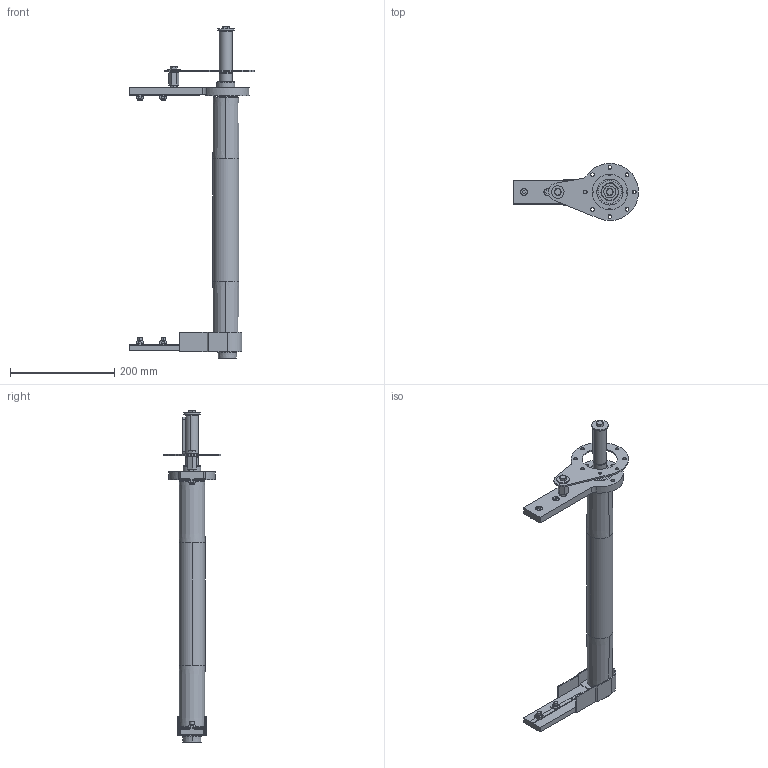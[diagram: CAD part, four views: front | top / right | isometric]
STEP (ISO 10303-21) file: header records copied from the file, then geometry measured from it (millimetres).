
FILE_DESCRIPTION (( 'STEP AP214' ), '1' );
FILE_NAME ('084.050.KD.49.450.STEP', '2019-08-06T10:08:33', ( '' ), ( '' ), 'SwSTEP 2.0', 'SolidWorks 2018', '' );
FILE_SCHEMA (( 'AUTOMOTIVE_DESIGN' ));
Length unit declared in the file: millimetre
Products named in the file (24): 084.815.129_Default<A macchina>; 084.050.KD.49.450; 084.810.001; 084.807.001_084.807.001; 084.802.027; 084.808.004; 084.802.034_084.802.034; 084.302.000 DADI ALUSIC 13x13_084.302.004; DADI ESAGONALI RIBASSATI UNI 5589_M8 UNI 5589; GRANI A PUNTA PIATTA UNI 5923_M8x25 UNI 5923; CHIAVETTE_A 5x5x25 UNI 6604-69; VITI TE UNI 5739_M8x20 UNI 5739; VITI TE UNI 5739_M8x16 UNI 5739; CHIAVETTE_A 8x7x70 UNI 6604-69; RONDELLE FASCIA LARGA UNI 6593_8.4x32 UNI 6593; 084.802.023_084.802.023; 084.811.004; 084.000.A01; 084.802.017_084.802.017; 084.301.000 VITI ALUSIC_084.301.003; 084.807.002_084.807.002; VITI TSEI UNI 5933_M4x10 UNI 5933; 084.811.003; RONDELLE FASCIA LARGA UNI 6593_8.4x24 UNI 6593
Assembly tree (31 placements, depth 3):
  084.050.KD.49.450
    084.807.002_084.807.002
    084.802.017_084.802.017
    084.811.004
    084.815.129_Default<A macchina>
    084.810.001  x2
    084.301.000 VITI ALUSIC_084.301.003  x4
    084.302.000 DADI ALUSIC 13x13_084.302.004  x4
    084.807.001_084.807.001
    084.802.034_084.802.034
    084.811.003
    084.000.A01
      084.802.027
      084.808.004
      GRANI A PUNTA PIATTA UNI 5923_M8x25 UNI 5923
      RONDELLE FASCIA LARGA UNI 6593_8.4x24 UNI 6593
      VITI TE UNI 5739_M8x16 UNI 5739
    084.802.023_084.802.023
    RONDELLE FASCIA LARGA UNI 6593_8.4x32 UNI 6593
    VITI TE UNI 5739_M8x20 UNI 5739
    DADI ESAGONALI RIBASSATI UNI 5589_M8 UNI 5589
    CHIAVETTE_A 8x7x70 UNI 6604-69
    CHIAVETTE_A 5x5x25 UNI 6604-69
    VITI TSEI UNI 5933_M4x10 UNI 5933  x2
Bounding box: 240 x 109.87 x 637.83 mm (x, y, z)
Volume: 764809.8 mm3; surface area: 418038.3 mm2
Topology: 35 solids, 36 shells, 810 faces, 1985 edges, 1278 vertices
Faces by surface type: plane 352, cylinder 263, cone 108, torus 70, sphere 9, bspline 8
Entity records: 21271 total; most frequent: CARTESIAN_POINT 4109, DIRECTION 3514, ORIENTED_EDGE 3146, EDGE_CURVE 1573, AXIS2_PLACEMENT_3D 1384, VERTEX_POINT 1013, EDGE_LOOP 760, VECTOR 746
